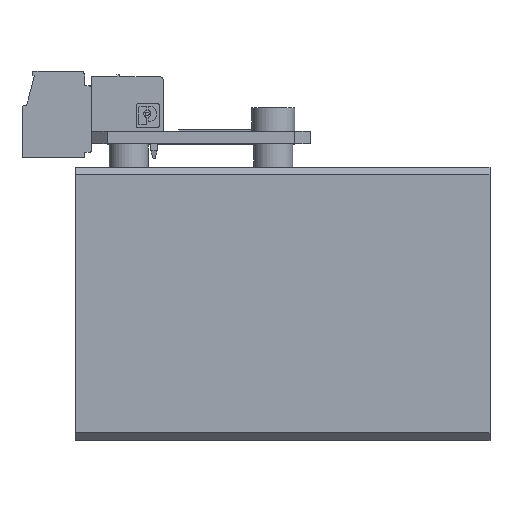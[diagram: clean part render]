
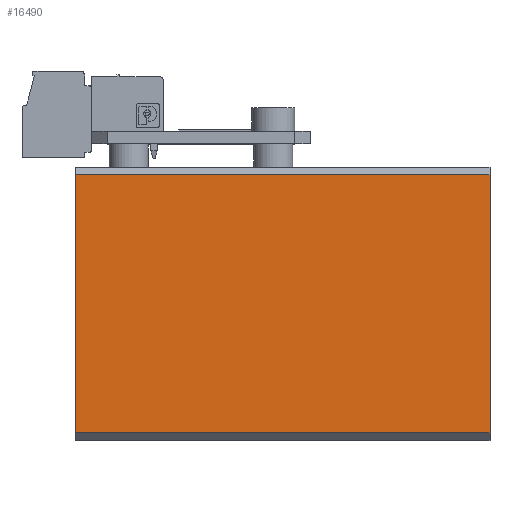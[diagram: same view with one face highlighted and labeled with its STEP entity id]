
A CAD part, top view. The second image highlights one B-rep face of the part: STEP entity #16490.
In plain terms, the highlighted planar face has unit normal (0, 0, 1).
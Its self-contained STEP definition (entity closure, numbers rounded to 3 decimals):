
#1069 = DIRECTION ( 'NONE',  ( 0., 0., -1. ) ) ;
#1592 = EDGE_CURVE ( 'NONE', #17254, #16784, #9519, .T. ) ;
#1977 = CARTESIAN_POINT ( 'NONE',  ( 53., -16.5, 17.5 ) ) ;
#3702 = EDGE_CURVE ( 'NONE', #10816, #16784, #20968, .T. ) ;
#5188 = PLANE ( 'NONE',  #25512 ) ;
#5287 = DIRECTION ( 'NONE',  ( -1., 0., 0. ) ) ;
#5655 = VERTEX_POINT ( 'NONE', #14601 ) ;
#6937 = VECTOR ( 'NONE', #16481, 1000. ) ;
#7187 = EDGE_CURVE ( 'NONE', #5655, #10816, #13119, .T. ) ;
#8245 = VECTOR ( 'NONE', #21203, 1000. ) ;
#8478 = CARTESIAN_POINT ( 'NONE',  ( 0., -16.5, 17.5 ) ) ;
#9519 = LINE ( 'NONE', #10665, #8245 ) ;
#9788 = ORIENTED_EDGE ( 'NONE', *, *, #1592, .F. ) ;
#10558 = DIRECTION ( 'NONE',  ( 1., 0., 0. ) ) ;
#10665 = CARTESIAN_POINT ( 'NONE',  ( 53., -17.5, 17.5 ) ) ;
#10816 = VERTEX_POINT ( 'NONE', #8478 ) ;
#11708 = ORIENTED_EDGE ( 'NONE', *, *, #7187, .T. ) ;
#12023 = VECTOR ( 'NONE', #5287, 1000. ) ;
#13119 = LINE ( 'NONE', #26863, #6937 ) ;
#13577 = CARTESIAN_POINT ( 'NONE',  ( 53., -17.5, 17.5 ) ) ;
#14341 = ORIENTED_EDGE ( 'NONE', *, *, #3702, .T. ) ;
#14601 = CARTESIAN_POINT ( 'NONE',  ( 0., 16.5, 17.5 ) ) ;
#15386 = VECTOR ( 'NONE', #10558, 1000. ) ;
#15681 = DIRECTION ( 'NONE',  ( -1., 0., 0. ) ) ;
#15688 = CARTESIAN_POINT ( 'NONE',  ( 53., 16.5, 17.5 ) ) ;
#16152 = CARTESIAN_POINT ( 'NONE',  ( 53., 16.5, 17.5 ) ) ;
#16481 = DIRECTION ( 'NONE',  ( 0., -1., 0. ) ) ;
#16490 = ADVANCED_FACE ( 'NONE', ( #23181 ), #5188, .F. ) ;
#16784 = VERTEX_POINT ( 'NONE', #25177 ) ;
#17254 = VERTEX_POINT ( 'NONE', #16152 ) ;
#17594 = LINE ( 'NONE', #15688, #12023 ) ;
#17617 = ORIENTED_EDGE ( 'NONE', *, *, #23865, .T. ) ;
#20968 = LINE ( 'NONE', #1977, #15386 ) ;
#21203 = DIRECTION ( 'NONE',  ( 0., -1., 0. ) ) ;
#23164 = EDGE_LOOP ( 'NONE', ( #11708, #14341, #9788, #17617 ) ) ;
#23181 = FACE_OUTER_BOUND ( 'NONE', #23164, .T. ) ;
#23865 = EDGE_CURVE ( 'NONE', #17254, #5655, #17594, .T. ) ;
#25177 = CARTESIAN_POINT ( 'NONE',  ( 53., -16.5, 17.5 ) ) ;
#25512 = AXIS2_PLACEMENT_3D ( 'NONE', #13577, #1069, #15681 ) ;
#26863 = CARTESIAN_POINT ( 'NONE',  ( 0., -17.5, 17.5 ) ) ;
